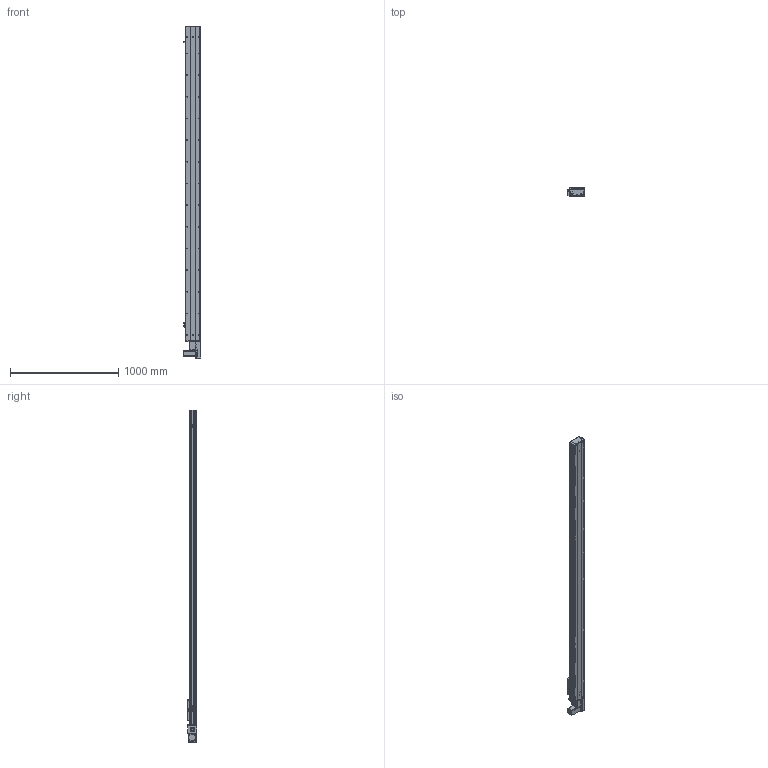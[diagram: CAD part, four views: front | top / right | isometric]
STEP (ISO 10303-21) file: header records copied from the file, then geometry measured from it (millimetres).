
FILE_DESCRIPTION (( 'STEP AP203' ), '1' );
FILE_NAME ('Y135CB-D90-S2600-BL-P400W.STEP', '2020-02-18T01:41:47', ( '微软用户' ), ( '微软中国' ), 'SwSTEP 2.0', 'SolidWorks 2017', '' );
FILE_SCHEMA (( 'CONFIG_CONTROL_DESIGN' ));
Length unit declared in the file: millimetre
Products named in the file (18): 0B-源倛裔啣; 0B-萇儂楊擘啣; Y135CB-耜裔; 135CB--詩湍-CE; san松下电机400不带刹车----; 135CB---遴掛极.-; Y100-135俋离換覜ん--; 5CB --掛极耜裔啣-; 35CB---喘謫眊楊擘啣; Y135C-陔俋离換覜結え-; C-詩湍揤踡え-陔; Y10B--々湍喘謫眊--666; 5C--俋欶; Y10B-耜蚾蟀諉啣----; C-雄赽釱--; Y俋欶BR----; Y135CB-D90-S2600-BL-P400W; 0B-埴倛裔啣
Assembly tree (21 placements, depth 2):
  Y135CB-D90-S2600-BL-P400W
    Y135CB-耜裔
    135CB---遴掛极.-
    35CB---喘謫眊楊擘啣
    Y10B--々湍喘謫眊--666
    Y10B-耜蚾蟀諉啣----
    Y俋欶BR----
    0B-埴倛裔啣
    0B-源倛裔啣
    0B-萇儂楊擘啣
    san松下电机400不带刹车----
    5CB --掛极耜裔啣-  x2
    C-詩湍揤踡え-陔  x2
    135CB--詩湍-CE
    Y100-135俋离換覜ん--  x3
    Y135C-陔俋离換覜結え-
    5C--俋欶
    C-雄赽釱--
Bounding box: 157.5 x 91 x 3064.5 mm (x, y, z)
Volume: 8542360.3 mm3; surface area: 3385361.1 mm2
Topology: 21 solids, 21 shells, 977 faces, 2671 edges, 1770 vertices
Faces by surface type: cylinder 503, plane 458, cone 16
Entity records: 30957 total; most frequent: CARTESIAN_POINT 5164, DIRECTION 5143, ORIENTED_EDGE 4818, EDGE_CURVE 2409, AXIS2_PLACEMENT_3D 1885, VERTEX_POINT 1598, VECTOR 1373, LINE 1373
